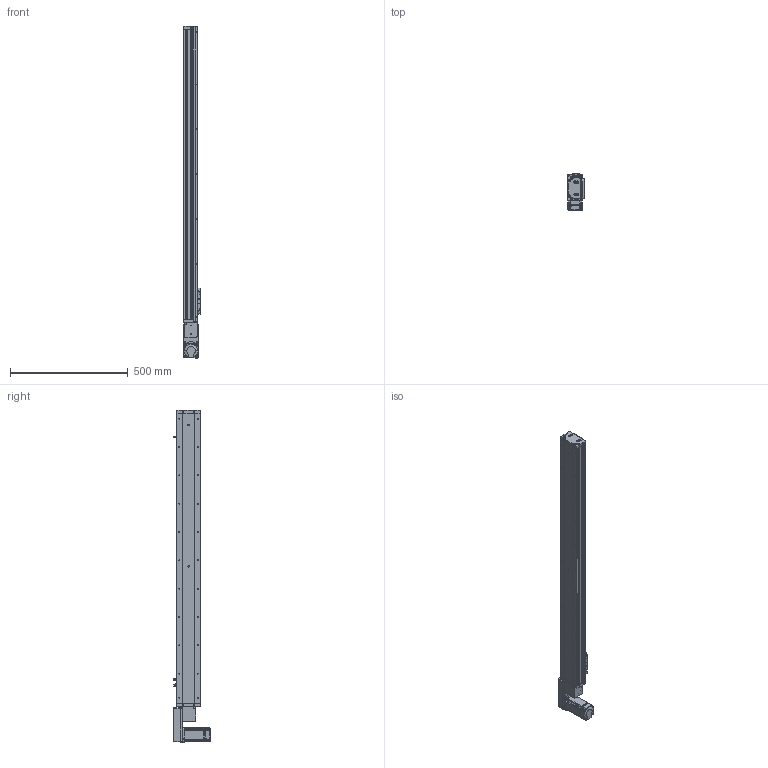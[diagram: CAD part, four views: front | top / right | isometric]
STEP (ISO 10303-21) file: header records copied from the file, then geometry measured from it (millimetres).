
FILE_DESCRIPTION (( 'STEP AP214' ), '1' );
FILE_NAME ('KSD100B-S1050-MLB-CR.STEP', '2019-11-12T09:28:53', ( '微软用户' ), ( '微软中国' ), 'SwSTEP 2.0', 'SolidWorks 2014', '' );
FILE_SCHEMA (( 'AUTOMOTIVE_DESIGN' ));
Length unit declared in the file: millimetre
Products named in the file (15): 100宽滚珠螺姆安装板1防护罩; 100宽滚珠螺姆安装板1; 100遵裔啣揤啣; 100遵裔啣1050俴最; 100宽侧板1050行程同步带; 100宽底板全封闭1050行程同步带; KSD100B-S1050-MLB-CR; 悵誘欶奻狟殏; MHMD042G1CA_2_03; 100宽马达安装板连板上下折丝杆同步带; 感应片100宽全封闭; U倰嫖萇EEㄜSX672; 100宽马达安装板同步带左; 100遵鎮湛假蚾啣蜊; 100宽端板同步带全封闭
Assembly tree (18 placements, depth 2):
  KSD100B-S1050-MLB-CR
    100宽底板全封闭1050行程同步带
    100宽侧板1050行程同步带  x2
    100遵裔啣1050俴最
    100遵裔啣揤啣  x2
    100宽滚珠螺姆安装板1
    100宽滚珠螺姆安装板1防护罩
    100宽端板同步带全封闭
    100遵鎮湛假蚾啣蜊
    100宽马达安装板同步带左
    U倰嫖萇EEㄜSX672  x3
    感应片100宽全封闭
    100宽马达安装板连板上下折丝杆同步带
    悵誘欶奻狟殏
    MHMD042G1CA_2_03
Bounding box: 70 x 156.2 x 1407 mm (x, y, z)
Volume: 2592501.6 mm3; surface area: 1147422.8 mm2
Topology: 17 solids, 18 shells, 1845 faces, 5154 edges, 3285 vertices
Faces by surface type: cylinder 833, plane 737, cone 255, bspline 20
Entity records: 65466 total; most frequent: CARTESIAN_POINT 10064, DIRECTION 8958, ORIENTED_EDGE 8252, EDGE_CURVE 4198, AXIS2_PLACEMENT_3D 3253, VERTEX_POINT 2783, LINE 2452, VECTOR 2452
